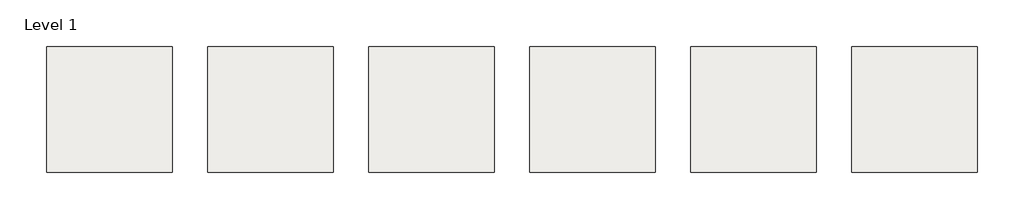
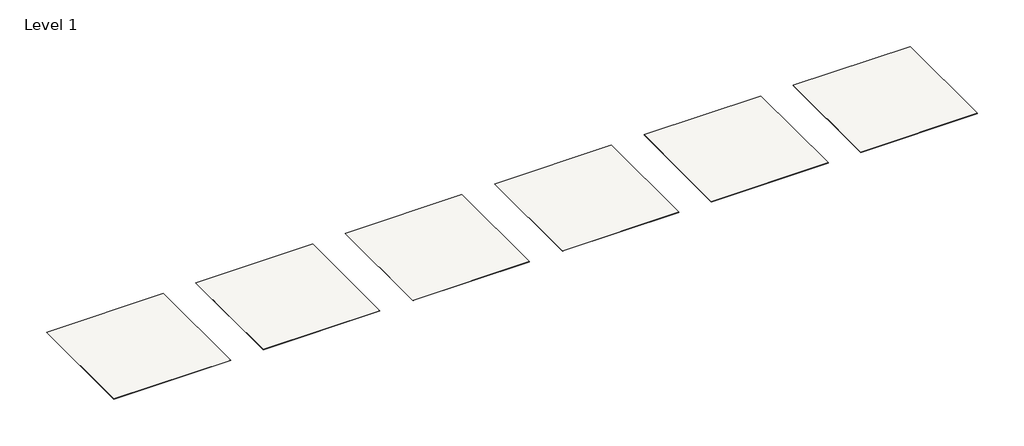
# One storey: 6 coverings.
"""IFC4 building model written with IfcOpenShell, lengths in millimetres."""

import ifcopenshell
import ifcopenshell.guid

model = None  # the IFC model being written
_history = None  # IfcOwnerHistory: only IFC2X3 demands one
_inside = {}  # id of a spatial element -> (the spatial element, [elements in it])
_under = {}  # id of a project, library or spatial element -> (it, [spatial elements below it])
_declared = {}  # id of a project -> (the project, [libraries it declares])
_typed = {}  # id of a type object -> (the type object, [elements of that type])
_made_of = {}  # id of a material, layer set ... -> (it, [elements and type objects made of it])


def new_model(schema):
    """Start an empty IFC model of exactly this schema.

    Asked for "IFC4X3", IfcOpenShell would pick the latest addendum, in which some entities
    have other attributes; the version numbers below select the first issue.
    IFC2X3 requires an IfcOwnerHistory on every rooted entity: one is made here for all.
    """
    global model, _history
    if schema == "IFC4X3":
        model = ifcopenshell.file(schema_version=(4, 3, 0, 0))
    else:
        model = ifcopenshell.file(schema=schema)
    _inside.clear()
    _under.clear()
    _declared.clear()
    _typed.clear()
    _made_of.clear()
    _history = None
    if model.schema == "IFC2X3":
        org = make("IfcOrganization", Name="unknown")
        user = make(
            "IfcPersonAndOrganization",
            ThePerson=make("IfcPerson", FamilyName="unknown"),
            TheOrganization=org,
        )
        app = make(
            "IfcApplication",
            ApplicationDeveloper=org,
            Version="unknown",
            ApplicationFullName="unknown",
            ApplicationIdentifier="unknown",
        )
        _history = make(
            "IfcOwnerHistory",
            OwningUser=user,
            OwningApplication=app,
            ChangeAction="ADDED",
            CreationDate=0,
        )
    return model


def make(cls, **values):
    """One entity of the class cls with the attributes given. An attribute that is None is left unset."""
    return model.create_entity(
        cls, **{name: value for name, value in values.items() if value is not None}
    )


def rooted(cls, **values):
    """An entity with a GlobalId (a new one), such as an element, a storey or a relation."""
    return make(cls, GlobalId=ifcopenshell.guid.new(), OwnerHistory=_history, **values)


def si_unit(unit_type, name, prefix=None):
    """IfcSIUnit, for example si_unit("LENGTHUNIT", "METRE", prefix="MILLI")."""
    return make("IfcSIUnit", UnitType=unit_type, Prefix=prefix, Name=name)


def assignment(units):
    """IfcUnitAssignment: the units of a project."""
    return None if units is None else make("IfcUnitAssignment", Units=units)


def point(xyz):
    """IfcCartesianPoint."""
    return None if xyz is None else make("IfcCartesianPoint", Coordinates=xyz)


def direction(xyz):
    """IfcDirection."""
    return None if xyz is None else make("IfcDirection", DirectionRatios=xyz)


def frame(location, z_axis=None, x_axis=None):
    """IfcAxis2Placement3D, a coordinate frame: its origin and axes. An axis left out is left unset."""
    return make(
        "IfcAxis2Placement3D",
        Location=point(location),
        Axis=direction(z_axis),
        RefDirection=direction(x_axis),
    )


def origin():
    """The frame at (0, 0, 0) with its axes left unset."""
    return frame((0.0, 0.0, 0.0))


def place(relative_to, where):
    """IfcLocalPlacement: puts the frame where relative to a parent placement (None: the world)."""
    return make(
        "IfcLocalPlacement", PlacementRelTo=relative_to, RelativePlacement=where
    )


def context(
    kind, dimensions, precision=None, world=None, true_north=None, identifier=None
):
    """IfcGeometricRepresentationContext, for example the 3D "Model" context."""
    return make(
        "IfcGeometricRepresentationContext",
        ContextIdentifier=identifier,
        ContextType=kind,
        CoordinateSpaceDimension=dimensions,
        Precision=precision,
        WorldCoordinateSystem=world,
        TrueNorth=true_north,
    )


def project(units=None, contexts=None):
    """IfcProject with its units and contexts."""
    return rooted(
        "IfcProject",
        Name="project",
        RepresentationContexts=contexts,
        UnitsInContext=assignment(units),
    )


def spatial(cls, under=None, at=None, **own):
    """A site, building, storey or space (cls), placed at a placement, below another one or the project."""
    s = rooted(cls, ObjectPlacement=at, **own)
    if under is not None:
        _under.setdefault(under.id(), (under, []))[1].append(s)
    return s


def polyline(points):
    """IfcPolyline through the points."""
    return make("IfcPolyline", Points=[point(p) for p in points])


def outline(outer, holes=None, kind="AREA"):
    """IfcArbitraryClosedProfileDef: a profile drawn as a closed curve; with holes, ...WithVoids."""
    if holes is None:
        return make("IfcArbitraryClosedProfileDef", ProfileType=kind, OuterCurve=outer)
    return make(
        "IfcArbitraryProfileDefWithVoids",
        ProfileType=kind,
        OuterCurve=outer,
        InnerCurves=holes,
    )


def extrude(swept, where, along, depth):
    """IfcExtrudedAreaSolid: the profile swept, set in the frame where, extruded along a direction by depth."""
    return make(
        "IfcExtrudedAreaSolid",
        SweptArea=swept,
        Position=where,
        ExtrudedDirection=direction(along),
        Depth=depth,
    )


def shape(context_of_items, identifier, shape_type, items):
    """IfcShapeRepresentation: the items that make up one representation, for example the "Body"."""
    return make(
        "IfcShapeRepresentation",
        ContextOfItems=context_of_items,
        RepresentationIdentifier=identifier,
        RepresentationType=shape_type,
        Items=items,
    )


def made_of(thing, what):
    """Note that an element or type object is made of a material, layer set ...; save() writes the relation."""
    if what is not None:
        _made_of.setdefault(what.id(), (what, []))[1].append(thing)
    return thing


def element(
    cls,
    number,
    at=None,
    inside=None,
    cuts=None,
    type_object=None,
    material=None,
    context=None,
    identifier="Body",
    shape_type=None,
    held_by="IfcProductDefinitionShape",
    body=None,
    shapes=None,
    **own,
):
    """One element of the class cls, such as IfcWall. Its Tag is "e" and its number.

    at: its placement. inside: the storey or other place that contains it. cuts: it is an
    opening in that element (IfcRelVoidsElement). A single representation is given by context,
    identifier, shape_type and body (its items); several are given by shapes. held_by: the class
    of the entity that holds the representations. save() writes the other relations.
    """
    e = rooted(cls, Tag="e%d" % number, ObjectPlacement=at, **own)
    if body is not None:
        shapes = [shape(context, identifier, shape_type, body)]
    if shapes is not None:
        e.Representation = make(held_by, Representations=shapes)
    if inside is not None:
        _inside.setdefault(inside.id(), (inside, []))[1].append(e)
    if cuts is not None:
        rooted(
            "IfcRelVoidsElement", RelatingBuildingElement=cuts, RelatedOpeningElement=e
        )
    if type_object is not None:
        _typed.setdefault(type_object.id(), (type_object, []))[1].append(e)
    return made_of(e, material)


def aggregate(whole, parts):
    """IfcRelAggregates: a whole, such as a stair, and the parts it consists of."""
    return rooted("IfcRelAggregates", RelatingObject=whole, RelatedObjects=parts)


def save(model, path):
    """Write the relations noted so far, then the file.

    IfcRelAggregates (storeys below a building ...), IfcRelContainedInSpatialStructure (elements
    in a storey), IfcRelDefinesByType, IfcRelAssociatesMaterial and IfcRelDeclares: one each for
    every whole, place, type object, material and project.
    """
    for whole, parts in _under.values():
        aggregate(whole, parts)
    for where, things in _inside.values():
        rooted(
            "IfcRelContainedInSpatialStructure",
            RelatedElements=things,
            RelatingStructure=where,
        )
    for kind, things in _typed.values():
        rooted("IfcRelDefinesByType", RelatedObjects=things, RelatingType=kind)
    for what, things in _made_of.values():
        rooted("IfcRelAssociatesMaterial", RelatedObjects=things, RelatingMaterial=what)
    for by, libraries in _declared.values():
        rooted("IfcRelDeclares", RelatingContext=by, RelatedDefinitions=libraries)
    model.write(path)


model = new_model("IFC4")

# Units and contexts
model_context = context("Model", 3, world=origin())
ifc_project = project(units=[si_unit("LENGTHUNIT", "METRE", prefix="MILLI")], contexts=[model_context])

# Site, building, storey
site = spatial("IfcSite", under=ifc_project)
building = spatial("IfcBuilding", under=site)
storey = spatial("IfcBuildingStorey", under=building, Name="Level 1", Elevation=0.0)

# Coverings
placement = place(None, origin())
element("IfcCovering", 1, ObjectType="Thesize_Neolith_Layla_3200 x 1500 x 6mm+ - Silk", at=placement, inside=storey, context=model_context, shape_type="SweptSolid", body=[
    extrude(outline(polyline([(-29005.5177483, 5858.4413411), (-29005.5177483, 858.4413411), (-34005.5177483, 858.4413411), (-34005.5177483, 5858.4413411), (-29005.5177483, 5858.4413411)])), frame((0.0, 0.0, -6.0), z_axis=(0.0, 0.0, 1.0), x_axis=(1.0, 0.0, 0.0)), (0.0, 0.0, 1.0), 6.0),
])
element("IfcCovering", 2, ObjectType="Thesize_Neolith_Layla_3200 x 1500 x 6mm+ - Polished", at=placement, inside=storey, context=model_context, shape_type="SweptSolid", body=[
    extrude(outline(polyline([(-22605.5177483, 5858.4413411), (-22605.5177483, 858.4413411), (-27605.5177483, 858.4413411), (-27605.5177483, 5858.4413411), (-22605.5177483, 5858.4413411)])), frame((0.0, 0.0, -6.0), z_axis=(0.0, 0.0, 1.0), x_axis=(1.0, 0.0, 0.0)), (0.0, 0.0, 1.0), 6.0),
])
element("IfcCovering", 3, ObjectType="Thesize_Neolith_Layla_3200 x 1600 x 12mm+ - Silk", at=placement, inside=storey, context=model_context, shape_type="SweptSolid", body=[
    extrude(outline(polyline([(-16205.5177483, 5858.4413411), (-16205.5177483, 858.4413411), (-21205.5177483, 858.4413411), (-21205.5177483, 5858.4413411), (-16205.5177483, 5858.4413411)])), frame((0.0, 0.0, -12.0), z_axis=(0.0, 0.0, 1.0), x_axis=(1.0, 0.0, 0.0)), (0.0, 0.0, 1.0), 12.0),
])
element("IfcCovering", 4, ObjectType="Thesize_Neolith_Layla_3200 x 1600 x 12mm+ - Polished", at=placement, inside=storey, context=model_context, shape_type="SweptSolid", body=[
    extrude(outline(polyline([(-9805.5177483, 5858.4413411), (-9805.5177483, 858.4413411), (-14805.5177483, 858.4413411), (-14805.5177483, 5858.4413411), (-9805.5177483, 5858.4413411)])), frame((0.0, 0.0, -12.0), z_axis=(0.0, 0.0, 1.0), x_axis=(1.0, 0.0, 0.0)), (0.0, 0.0, 1.0), 12.0),
])
element("IfcCovering", 5, ObjectType="Thesize_Neolith_Layla_3200 x 1600 x 20mm+ - Silk", at=placement, inside=storey, context=model_context, shape_type="SweptSolid", body=[
    extrude(outline(polyline([(-3405.5177483, 5858.4413411), (-3405.5177483, 858.4413411), (-8405.5177483, 858.4413411), (-8405.5177483, 5858.4413411), (-3405.5177483, 5858.4413411)])), frame((0.0, 0.0, -20.0), z_axis=(0.0, 0.0, 1.0), x_axis=(1.0, 0.0, 0.0)), (0.0, 0.0, 1.0), 20.0),
])
element("IfcCovering", 6, ObjectType="Thesize_Neolith_Layla_3200 x 1600 x 20mm+ - Polished", at=placement, inside=storey, context=model_context, shape_type="SweptSolid", body=[
    extrude(outline(polyline([(2994.4822517, 5858.4413411), (2994.4822517, 858.4413411), (-2005.5177483, 858.4413411), (-2005.5177483, 5858.4413411), (2994.4822517, 5858.4413411)])), frame((0.0, 0.0, -20.0), z_axis=(0.0, 0.0, 1.0), x_axis=(1.0, 0.0, 0.0)), (0.0, 0.0, 1.0), 20.0),
])

save(model, "model.ifc")
